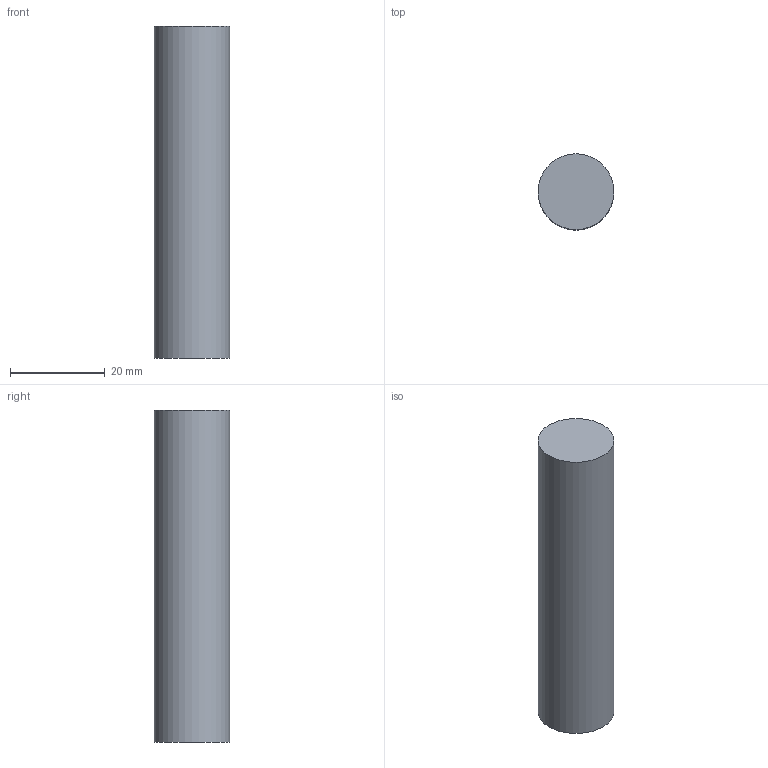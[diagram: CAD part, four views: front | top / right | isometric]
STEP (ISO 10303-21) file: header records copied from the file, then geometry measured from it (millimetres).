
FILE_DESCRIPTION(('Open CASCADE Model'),'2;1');
FILE_NAME('Open CASCADE Shape Model','2026-10-15T15:10:05',('Author'),( 'Open CASCADE'),'Open CASCADE STEP processor 8.0','Open CASCADE 8.0' ,'Unknown');
FILE_SCHEMA(('AUTOMOTIVE_DESIGN { 1 0 10303 214 1 1 1 1 }'));
Length unit declared in the file: millimetre
Products named in the file (1): TC19_ESPARRAGO_M16_L70_8p8_REF 155
Bounding box: 16 x 16 x 70 mm (x, y, z)
Volume: 14074.3 mm3; surface area: 3920.7 mm2
Topology: 1 solids, 1 shells, 3 faces, 3 edges, 2 vertices
Faces by surface type: plane 2, cylinder 1
Full cylindrical faces by diameter (mm): 16 x1
Entity records: 108 total; most frequent: DIRECTION 19, CARTESIAN_POINT 15, AXIS2_PLACEMENT_3D 6, ORIENTED_EDGE 6, PCURVE 6, DEFINITIONAL_REPRESENTATION 6, LINE 5, VECTOR 5
